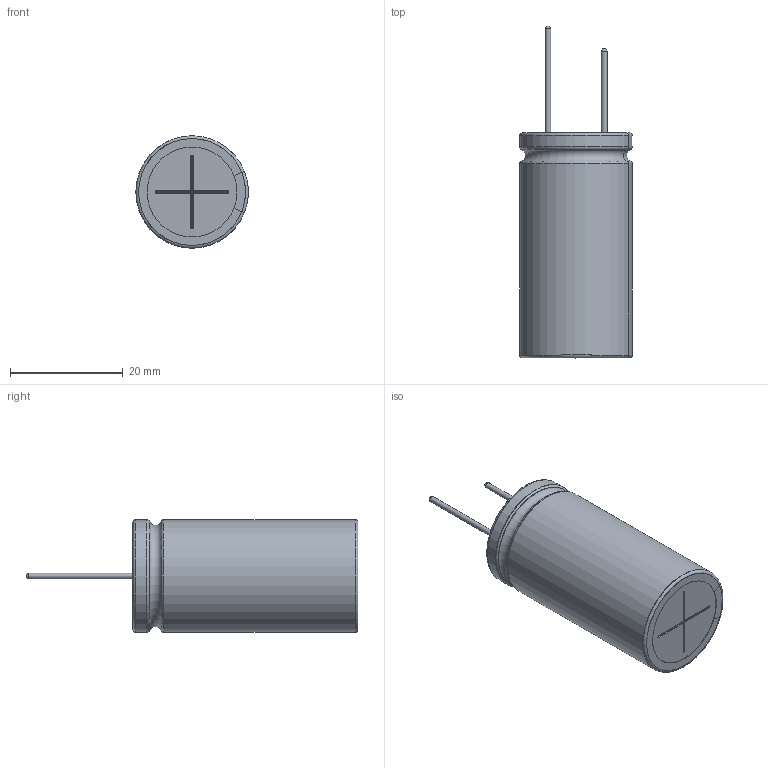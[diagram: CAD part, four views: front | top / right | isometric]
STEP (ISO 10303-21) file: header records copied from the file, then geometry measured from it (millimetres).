
FILE_DESCRIPTION(/* description */ (''),/* implementation_level */ '2;1');
FILE_NAME(/* name */ '20x40_Lead.stp',/* time_stamp */ '2017-09-06T16:04:49+09:00',/* author */ (''),/* organization */ (''),/* preprocessor_version */ 'ST-DEVELOPER v16',/* originating_system */ 'SIEMENS PLM Software NX 11.0',/* authorisation */ '');
FILE_SCHEMA (('AUTOMOTIVE_DESIGN { 1 0 10303 214 3 1 1 1 }'));
Length unit declared in the file: millimetre
Products named in the file (1): 20x40_Lead_0
Bounding box: 19.97 x 59 x 20 mm (x, y, z)
Volume: 12459.2 mm3; surface area: 8702.4 mm2
Topology: 3 solids, 3 shells, 100 faces, 252 edges, 160 vertices
Faces by surface type: cylinder 36, plane 28, torus 26, sphere 6, bspline 4
Full cylindrical faces by diameter (mm): 1 x2, 19.8 x2
Entity records: 3386 total; most frequent: CARTESIAN_POINT 605, DIRECTION 566, ORIENTED_EDGE 468, AXIS2_PLACEMENT_3D 235, EDGE_CURVE 234, VERTEX_POINT 154, CIRCLE 130, EDGE_LOOP 114
